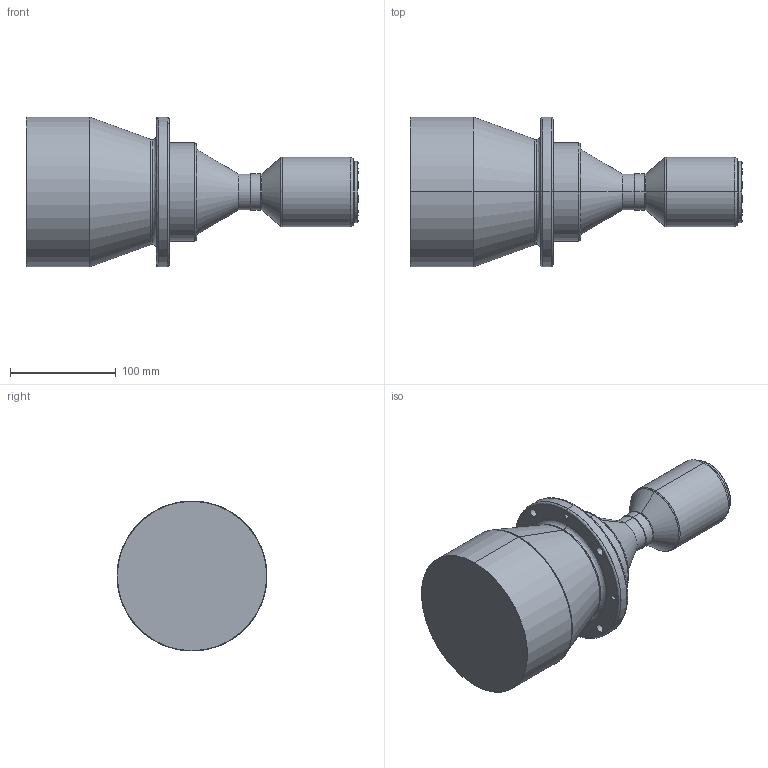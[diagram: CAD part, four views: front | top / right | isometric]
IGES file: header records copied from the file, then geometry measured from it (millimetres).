
Start section: SolidWorks IGES file using analytic representation for surfaces
Global section: file name: C:\Users\Administrator\Desktop\DTCM430H-100H-M58-AL.IGS; native system: SolidWorks 2017; preprocessor: SolidWorks 2017; author: Administrator; date: 210315.105932; units: millimetre
Bounding box: 314.3 x 142 x 142 mm (x, y, z)
Surface area: 132206.9 mm2 (no closed solid volume)
Topology: 0 solids, 0 shells, 73 faces, 1792 edges, 1792 vertices
Faces by surface type: revolution 50, bspline 23
